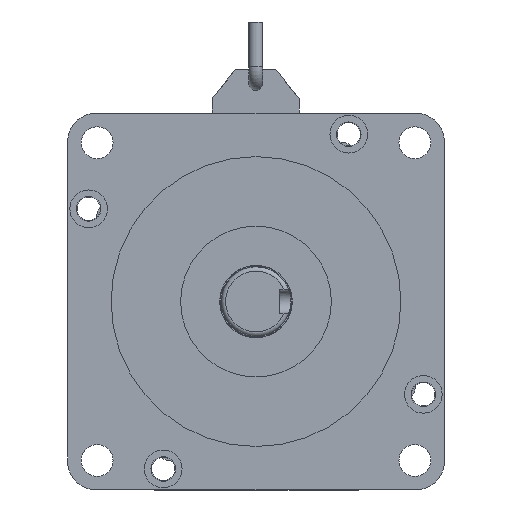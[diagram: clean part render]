
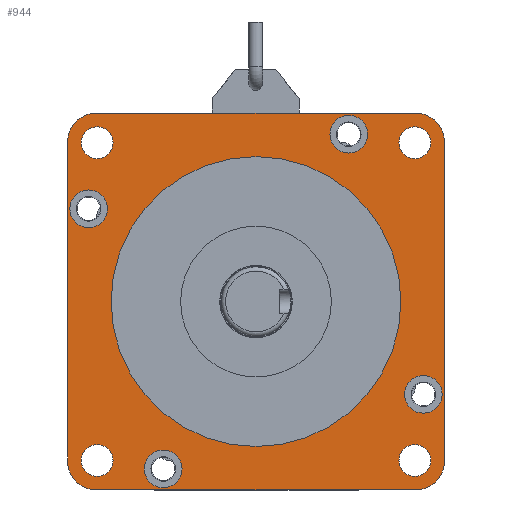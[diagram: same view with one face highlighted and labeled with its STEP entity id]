
A CAD part, front view. The second image highlights one B-rep face of the part: STEP entity #944.
In plain terms, the highlighted planar face has unit normal (0, -1, 0).
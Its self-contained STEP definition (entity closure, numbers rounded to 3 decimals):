
#944=ADVANCED_FACE('',(#1545,#1546,#1547,#1548,#1549,#1550,#1551,#1552,
#1553,#1554),#1260,.T.);
#1260=PLANE('',#8769);
#1545=FACE_BOUND('',#2155,.T.);
#1546=FACE_BOUND('',#2156,.T.);
#1547=FACE_BOUND('',#2157,.T.);
#1548=FACE_BOUND('',#2158,.T.);
#1549=FACE_BOUND('',#2159,.T.);
#1550=FACE_BOUND('',#2160,.T.);
#1551=FACE_BOUND('',#2161,.T.);
#1552=FACE_BOUND('',#2162,.T.);
#1553=FACE_BOUND('',#2163,.T.);
#1554=FACE_BOUND('',#2164,.T.);
#2155=EDGE_LOOP('',(#4236));
#2156=EDGE_LOOP('',(#4237));
#2157=EDGE_LOOP('',(#4238));
#2158=EDGE_LOOP('',(#4239));
#2159=EDGE_LOOP('',(#4240));
#2160=EDGE_LOOP('',(#4241));
#2161=EDGE_LOOP('',(#4242));
#2162=EDGE_LOOP('',(#4243));
#2163=EDGE_LOOP('',(#4244));
#2164=EDGE_LOOP('',(#4245,#4246,#4247,#4248,#4249,#4250,#4251,#4252));
#4236=ORIENTED_EDGE('',*,*,#6183,.T.);
#4237=ORIENTED_EDGE('',*,*,#6181,.T.);
#4238=ORIENTED_EDGE('',*,*,#6179,.T.);
#4239=ORIENTED_EDGE('',*,*,#6177,.T.);
#4240=ORIENTED_EDGE('',*,*,#6168,.T.);
#4241=ORIENTED_EDGE('',*,*,#6166,.T.);
#4242=ORIENTED_EDGE('',*,*,#6164,.T.);
#4243=ORIENTED_EDGE('',*,*,#6170,.T.);
#4244=ORIENTED_EDGE('',*,*,#6186,.T.);
#4245=ORIENTED_EDGE('',*,*,#6148,.F.);
#4246=ORIENTED_EDGE('',*,*,#6157,.T.);
#4247=ORIENTED_EDGE('',*,*,#6155,.F.);
#4248=ORIENTED_EDGE('',*,*,#6163,.T.);
#4249=ORIENTED_EDGE('',*,*,#6134,.F.);
#4250=ORIENTED_EDGE('',*,*,#6161,.T.);
#4251=ORIENTED_EDGE('',*,*,#6141,.F.);
#4252=ORIENTED_EDGE('',*,*,#6159,.T.);
#5072=VERTEX_POINT('',#13294);
#5077=VERTEX_POINT('',#13304);
#5078=VERTEX_POINT('',#13308);
#5083=VERTEX_POINT('',#13318);
#5084=VERTEX_POINT('',#13322);
#5089=VERTEX_POINT('',#13332);
#5090=VERTEX_POINT('',#13336);
#5095=VERTEX_POINT('',#13346);
#5096=VERTEX_POINT('',#13362);
#5098=VERTEX_POINT('',#13367);
#5100=VERTEX_POINT('',#13372);
#5102=VERTEX_POINT('',#13377);
#5109=VERTEX_POINT('',#13396);
#5111=VERTEX_POINT('',#13401);
#5113=VERTEX_POINT('',#13406);
#5115=VERTEX_POINT('',#13411);
#5118=VERTEX_POINT('',#13420);
#6134=EDGE_CURVE('',#5077,#5072,#7279,.T.);
#6141=EDGE_CURVE('',#5083,#5078,#7286,.T.);
#6148=EDGE_CURVE('',#5089,#5084,#7293,.T.);
#6155=EDGE_CURVE('',#5095,#5090,#7300,.T.);
#6157=EDGE_CURVE('',#5089,#5090,#6391,.T.);
#6159=EDGE_CURVE('',#5083,#5084,#6393,.T.);
#6161=EDGE_CURVE('',#5077,#5078,#6395,.T.);
#6163=EDGE_CURVE('',#5095,#5072,#6397,.T.);
#6164=EDGE_CURVE('',#5096,#5096,#6398,.T.);
#6166=EDGE_CURVE('',#5098,#5098,#6400,.T.);
#6168=EDGE_CURVE('',#5100,#5100,#6402,.T.);
#6170=EDGE_CURVE('',#5102,#5102,#6404,.T.);
#6177=EDGE_CURVE('',#5109,#5109,#6411,.T.);
#6179=EDGE_CURVE('',#5111,#5111,#6413,.T.);
#6181=EDGE_CURVE('',#5113,#5113,#6415,.T.);
#6183=EDGE_CURVE('',#5115,#5115,#6417,.T.);
#6186=EDGE_CURVE('',#5118,#5118,#6420,.T.);
#6391=CIRCLE('',#8720,10.);
#6393=CIRCLE('',#8723,10.);
#6395=CIRCLE('',#8726,10.);
#6397=CIRCLE('',#8729,10.);
#6398=CIRCLE('',#8731,5.5);
#6400=CIRCLE('',#8734,5.5);
#6402=CIRCLE('',#8737,5.5);
#6404=CIRCLE('',#8740,5.5);
#6411=CIRCLE('',#8752,6.5);
#6413=CIRCLE('',#8755,6.5);
#6415=CIRCLE('',#8758,6.5);
#6417=CIRCLE('',#8761,6.5);
#6420=CIRCLE('',#8767,50.);
#7279=LINE('',#13305,#8142);
#7286=LINE('',#13319,#8149);
#7293=LINE('',#13333,#8156);
#7300=LINE('',#13347,#8163);
#8142=VECTOR('',#10690,1.);
#8149=VECTOR('',#10699,1.);
#8156=VECTOR('',#10708,1.);
#8163=VECTOR('',#10717,1.);
#8720=AXIS2_PLACEMENT_3D('',#13350,#10722,#10723);
#8723=AXIS2_PLACEMENT_3D('',#13353,#10728,#10729);
#8726=AXIS2_PLACEMENT_3D('',#13356,#10734,#10735);
#8729=AXIS2_PLACEMENT_3D('',#13359,#10740,#10741);
#8731=AXIS2_PLACEMENT_3D('',#13361,#10744,#10745);
#8734=AXIS2_PLACEMENT_3D('',#13366,#10750,#10751);
#8737=AXIS2_PLACEMENT_3D('',#13371,#10756,#10757);
#8740=AXIS2_PLACEMENT_3D('',#13376,#10762,#10763);
#8752=AXIS2_PLACEMENT_3D('',#13395,#10786,#10787);
#8755=AXIS2_PLACEMENT_3D('',#13400,#10792,#10793);
#8758=AXIS2_PLACEMENT_3D('',#13405,#10798,#10799);
#8761=AXIS2_PLACEMENT_3D('',#13410,#10804,#10805);
#8767=AXIS2_PLACEMENT_3D('',#13419,#10816,#10817);
#8769=AXIS2_PLACEMENT_3D('',#13422,#10820,#10821);
#10690=DIRECTION('',(0.,0.,1.));
#10699=DIRECTION('',(-1.,0.,0.));
#10708=DIRECTION('',(0.,0.,-1.));
#10717=DIRECTION('',(1.,0.,0.));
#10722=DIRECTION('',(0.,-1.,0.));
#10723=DIRECTION('',(-1.,0.,0.));
#10728=DIRECTION('',(0.,-1.,0.));
#10729=DIRECTION('',(-1.,0.,0.));
#10734=DIRECTION('',(0.,-1.,0.));
#10735=DIRECTION('',(-1.,0.,0.));
#10740=DIRECTION('',(0.,-1.,0.));
#10741=DIRECTION('',(-1.,0.,0.));
#10744=DIRECTION('',(0.,1.,0.));
#10745=DIRECTION('',(0.,0.,1.));
#10750=DIRECTION('',(0.,1.,0.));
#10751=DIRECTION('',(-1.,0.,0.));
#10756=DIRECTION('',(0.,1.,0.));
#10757=DIRECTION('',(0.,0.,-1.));
#10762=DIRECTION('',(0.,1.,0.));
#10763=DIRECTION('',(1.,0.,0.));
#10786=DIRECTION('',(0.,1.,0.));
#10787=DIRECTION('',(0.,0.,1.));
#10792=DIRECTION('',(0.,1.,0.));
#10793=DIRECTION('',(-1.,0.,0.));
#10798=DIRECTION('',(0.,1.,0.));
#10799=DIRECTION('',(0.,0.,-1.));
#10804=DIRECTION('',(0.,1.,0.));
#10805=DIRECTION('',(1.,0.,0.));
#10816=DIRECTION('',(0.,1.,0.));
#10817=DIRECTION('',(-1.,0.,0.));
#10820=DIRECTION('',(0.,-1.,0.));
#10821=DIRECTION('',(-1.,0.,0.));
#13294=CARTESIAN_POINT('',(118.536,-994.118,102.721));
#13304=CARTESIAN_POINT('',(118.536,-994.118,-7.279));
#13305=CARTESIAN_POINT('',(118.536,-994.118,47.721));
#13308=CARTESIAN_POINT('',(128.536,-994.118,-17.279));
#13318=CARTESIAN_POINT('',(238.536,-994.118,-17.279));
#13319=CARTESIAN_POINT('',(183.536,-994.118,-17.279));
#13322=CARTESIAN_POINT('',(248.536,-994.118,-7.279));
#13332=CARTESIAN_POINT('',(248.536,-994.118,102.721));
#13333=CARTESIAN_POINT('',(248.536,-994.118,47.721));
#13336=CARTESIAN_POINT('',(238.536,-994.118,112.721));
#13346=CARTESIAN_POINT('',(128.536,-994.118,112.721));
#13347=CARTESIAN_POINT('',(183.536,-994.118,112.721));
#13350=CARTESIAN_POINT('',(238.536,-994.118,102.721));
#13353=CARTESIAN_POINT('',(238.536,-994.118,-7.279));
#13356=CARTESIAN_POINT('',(128.536,-994.118,-7.279));
#13359=CARTESIAN_POINT('',(128.536,-994.118,102.721));
#13361=CARTESIAN_POINT('',(238.337,-994.118,102.522));
#13362=CARTESIAN_POINT('',(238.337,-994.118,108.022));
#13366=CARTESIAN_POINT('',(128.736,-994.118,102.522));
#13367=CARTESIAN_POINT('',(123.236,-994.118,102.522));
#13371=CARTESIAN_POINT('',(128.736,-994.118,-7.079));
#13372=CARTESIAN_POINT('',(128.736,-994.118,-12.579));
#13376=CARTESIAN_POINT('',(238.337,-994.118,-7.079));
#13377=CARTESIAN_POINT('',(243.837,-994.118,-7.079));
#13395=CARTESIAN_POINT('',(241.261,-994.118,15.724));
#13396=CARTESIAN_POINT('',(241.261,-994.118,22.224));
#13400=CARTESIAN_POINT('',(215.534,-994.118,105.446));
#13401=CARTESIAN_POINT('',(209.034,-994.118,105.446));
#13405=CARTESIAN_POINT('',(125.811,-994.118,79.719));
#13406=CARTESIAN_POINT('',(125.811,-994.118,73.219));
#13410=CARTESIAN_POINT('',(151.539,-994.118,-10.004));
#13411=CARTESIAN_POINT('',(158.039,-994.118,-10.004));
#13419=CARTESIAN_POINT('',(183.536,-994.118,47.721));
#13420=CARTESIAN_POINT('',(133.536,-994.118,47.721));
#13422=CARTESIAN_POINT('',(183.536,-994.118,47.721));
